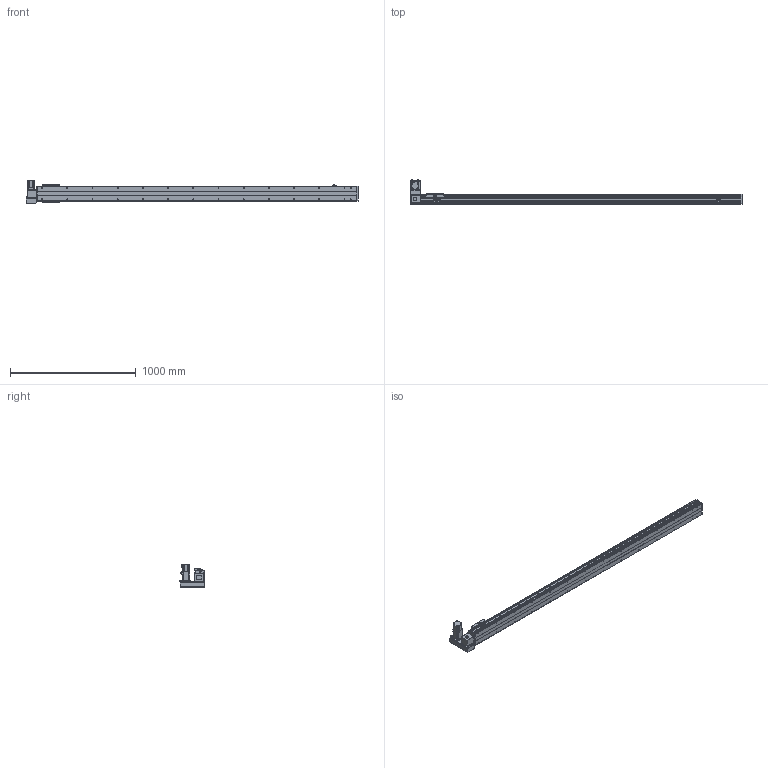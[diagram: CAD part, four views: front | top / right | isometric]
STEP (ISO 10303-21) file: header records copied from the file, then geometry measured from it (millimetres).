
FILE_DESCRIPTION( ( 'STEP AP214' ), '1' );
FILE_NAME( 'x:/temp/worker_27/temp/exporttempdir_6708_129_b6zpk/format_0/PBS120-P40-S2250-LU-T40-C1-N(0).stp', '2022-06-06T00:33:39', ( 'License CC BY-ND 4.0' ), ( 'CADENAS' ), ' ', 'PARTsolutions', ' ' );
FILE_SCHEMA( ( 'AUTOMOTIVE_DESIGN { 1 0 10303 214 1 1 1 1 }' ) );
Length unit declared in the file: millimetre
Products named in the file (7): PBS120-P40-S2250-LU-T40-C1-N(0); _PBS120-S2250()_body; _PBS120T-LU_motors; _T40-p1; _PBS120_sliser; _PBS120_plant; _PBS120_sensor
Assembly tree (8 placements, depth 2):
  PBS120-P40-S2250-LU-T40-C1-N(0)
    _PBS120-S2250()_body
    _PBS120T-LU_motors
    _T40-p1
    _PBS120_sliser
    _PBS120_plant
    _PBS120_sensor  x3
Bounding box: 2636 x 198 x 189.7 mm (x, y, z)
Volume: 10029774.3 mm3; surface area: 2061607.6 mm2
Topology: 8 solids, 8 shells, 864 faces, 2216 edges, 1423 vertices
Faces by surface type: plane 561, cylinder 241, cone 60, torus 2
Full cylindrical faces by diameter (mm): 2.459 x6, 3.242 x4, 4 x2, 4.134 x4, 4.5 x10, 4.917 x32, 5.5 x11, 6 x2, 6.6 x1, 7 x2, 8.5 x4, 9 x4, 12 x1, 14 x1, 30 x2, 40 x1, 50 x2
Entity records: 28332 total; most frequent: DIRECTION 3884, CARTESIAN_POINT 3785, ORIENTED_EDGE 3574, EDGE_CURVE 1787, AXIS2_PLACEMENT_3D 1328, VERTEX_POINT 1229, LINE 1228, VECTOR 1228
